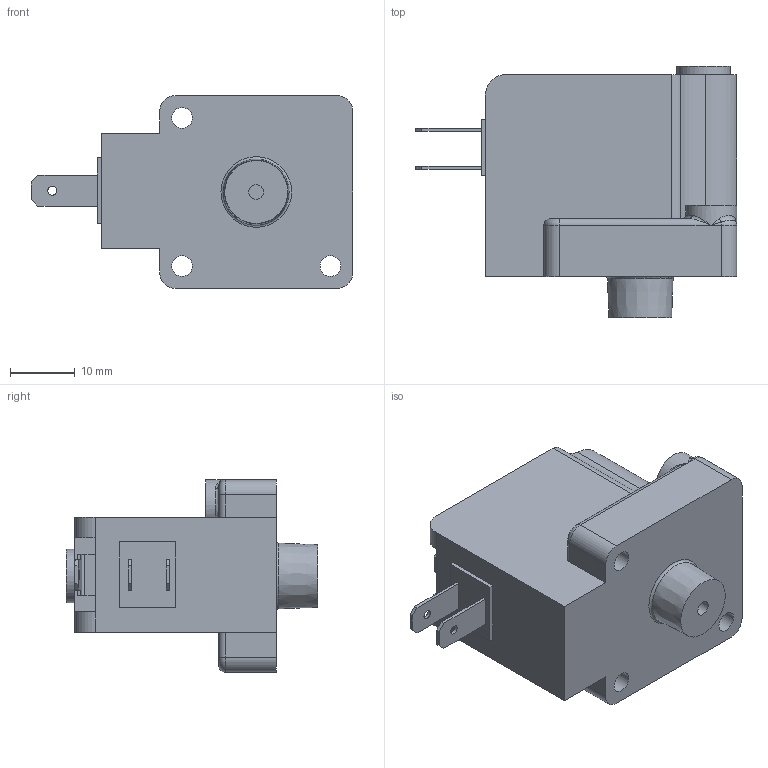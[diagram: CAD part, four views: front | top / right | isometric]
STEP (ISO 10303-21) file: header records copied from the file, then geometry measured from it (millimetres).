
FILE_DESCRIPTION(/* description */ (''),/* implementation_level */ '2;1');
FILE_NAME(/* name */ 'U:/AirCom-Produktdokumentation/Druckschalter/F4200/Zeichnungen/CAD-Aircom/3D/B-F4200.step',/* time_stamp */ '2022-06-28T08:42:16+02:00',/* author */ (''),/* organization */ (''),/* preprocessor_version */ 'ST-DEVELOPER v19',/* originating_system */ 'Autodesk Translation Framework v11.7.0.108',/* authorisation */ '');
FILE_SCHEMA (('AUTOMOTIVE_DESIGN { 1 0 10303 214 3 1 1 }'));
Length unit declared in the file: inch
Products named in the file (2): (Nicht gespeichert); F-4200-__-PT
Assembly tree (1 placements, depth 2):
  (Nicht gespeichert)
    F-4200-__-PT
Bounding box: 49.53 x 38.73 x 29.72 mm (x, y, z)
Volume: 21799.2 mm3; surface area: 7235.7 mm2
Topology: 5 solids, 5 shells, 111 faces, 270 edges, 172 vertices
Faces by surface type: plane 65, cylinder 33, torus 6, bspline 5, cone 2
Full cylindrical faces by diameter (mm): 1.397 x3, 2.286 x1, 3.175 x3, 3.81 x1, 7.874 x1, 8.23 x2
Entity records: 3494 total; most frequent: CARTESIAN_POINT 774, DIRECTION 547, ORIENTED_EDGE 534, EDGE_CURVE 267, AXIS2_PLACEMENT_3D 185, LINE 177, VECTOR 177, VERTEX_POINT 172
